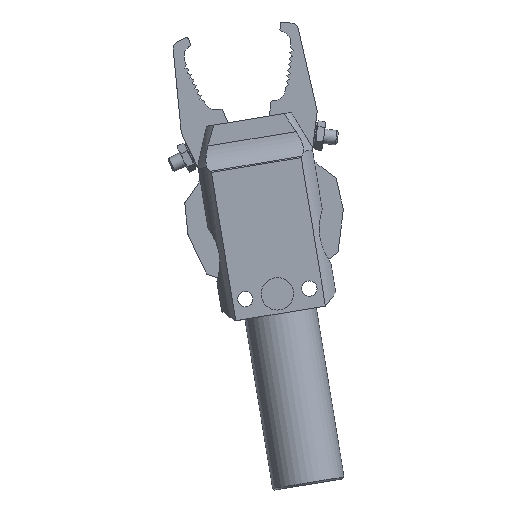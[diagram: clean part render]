
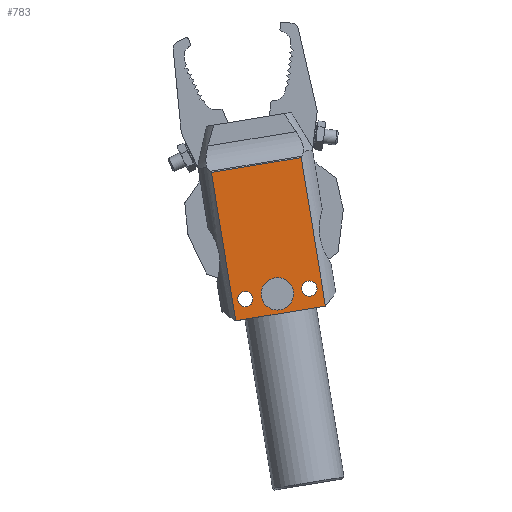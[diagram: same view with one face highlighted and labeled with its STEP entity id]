
A CAD part, front view. The second image highlights one B-rep face of the part: STEP entity #783.
In plain terms, the highlighted planar face has unit normal (0, -1, 0).
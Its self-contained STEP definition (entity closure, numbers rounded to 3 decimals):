
#783=ADVANCED_FACE('',(#1632,#1633,#1634,#1635),#1636,.T.);
#1632=FACE_BOUND('',#2820,.T.);
#1633=FACE_BOUND('',#2821,.T.);
#1634=FACE_BOUND('',#2822,.T.);
#1635=FACE_OUTER_BOUND('',#2823,.T.);
#1636=PLANE('',#2824);
#2820=EDGE_LOOP('',(#4073));
#2821=EDGE_LOOP('',(#4074));
#2822=EDGE_LOOP('',(#4075));
#2823=EDGE_LOOP('',(#4076,#4077,#4078,#4079));
#2824=AXIS2_PLACEMENT_3D('',#4080,#4081,#4082);
#4073=ORIENTED_EDGE('',*,*,#7606,.F.);
#4074=ORIENTED_EDGE('',*,*,#7607,.F.);
#4075=ORIENTED_EDGE('',*,*,#7608,.F.);
#4076=ORIENTED_EDGE('',*,*,#7609,.T.);
#4077=ORIENTED_EDGE('',*,*,#7610,.T.);
#4078=ORIENTED_EDGE('',*,*,#7611,.T.);
#4079=ORIENTED_EDGE('',*,*,#7594,.T.);
#4080=CARTESIAN_POINT('',(17.501,-12.0,0.0));
#4081=DIRECTION('',(0.0,-1.0,0.));
#4082=DIRECTION('',(0.0,0.,-1.0));
#7594=EDGE_CURVE('',#9055,#9053,#9056,.T.);
#7606=EDGE_CURVE('',#9073,#9073,#9074,.T.);
#7607=EDGE_CURVE('',#9075,#9075,#9076,.T.);
#7608=EDGE_CURVE('',#9077,#9077,#9078,.T.);
#7609=EDGE_CURVE('',#9053,#9079,#9080,.F.);
#7610=EDGE_CURVE('',#9079,#9081,#9082,.F.);
#7611=EDGE_CURVE('',#9081,#9055,#9083,.T.);
#9053=VERTEX_POINT('',#11353);
#9055=VERTEX_POINT('',#11355);
#9056=LINE('',#11356,#11357);
#9073=VERTEX_POINT('',#11377);
#9074=CIRCLE('',#11378,2.1);
#9075=VERTEX_POINT('',#11379);
#9076=CIRCLE('',#11380,2.1);
#9077=VERTEX_POINT('',#11381);
#9078=CIRCLE('',#11382,4.5);
#9079=VERTEX_POINT('',#11383);
#9080=LINE('',#11384,#11385);
#9081=VERTEX_POINT('',#11386);
#9082=LINE('',#11387,#11388);
#9083=LINE('',#11389,#11390);
#11353=CARTESIAN_POINT('',(-12.6,-12.0,57.0));
#11355=CARTESIAN_POINT('',(12.6,-12.0,57.0));
#11356=CARTESIAN_POINT('',(17.501,-12.0,57.0));
#11357=VECTOR('',#14286,1.0);
#11377=CARTESIAN_POINT('',(-9.0,-12.0,49.4));
#11378=AXIS2_PLACEMENT_3D('',#14305,#14306,#14307);
#11379=CARTESIAN_POINT('',(9.0,-12.0,49.4));
#11380=AXIS2_PLACEMENT_3D('',#14308,#14309,#14310);
#11381=CARTESIAN_POINT('',(0.0,-12.0,47.0));
#11382=AXIS2_PLACEMENT_3D('',#14311,#14312,#14313);
#11383=CARTESIAN_POINT('',(-12.6,-12.0,15.348));
#11384=CARTESIAN_POINT('',(-12.6,-12.0,-5.617));
#11385=VECTOR('',#14314,1.0);
#11386=CARTESIAN_POINT('',(12.6,-12.0,15.348));
#11387=CARTESIAN_POINT('',(17.501,-12.0,15.348));
#11388=VECTOR('',#14315,1.0);
#11389=CARTESIAN_POINT('',(12.6,-12.0,-5.617));
#11390=VECTOR('',#14316,1.0);
#14286=DIRECTION('',(-1.0,0.0,0.0));
#14305=CARTESIAN_POINT('',(-9.0,-12.0,51.5));
#14306=DIRECTION('',(0.0,-1.0,0.0));
#14307=DIRECTION('',(0.0,0.0,-1.0));
#14308=CARTESIAN_POINT('',(9.0,-12.0,51.5));
#14309=DIRECTION('',(0.0,-1.0,0.0));
#14310=DIRECTION('',(0.0,0.0,-1.0));
#14311=CARTESIAN_POINT('',(0.0,-12.0,51.5));
#14312=DIRECTION('',(0.0,-1.0,0.));
#14313=DIRECTION('',(0.0,0.,-1.0));
#14314=DIRECTION('',(0.0,0.0,1.0));
#14315=DIRECTION('',(-1.0,0.0,0.0));
#14316=DIRECTION('',(0.0,0.0,1.0));
